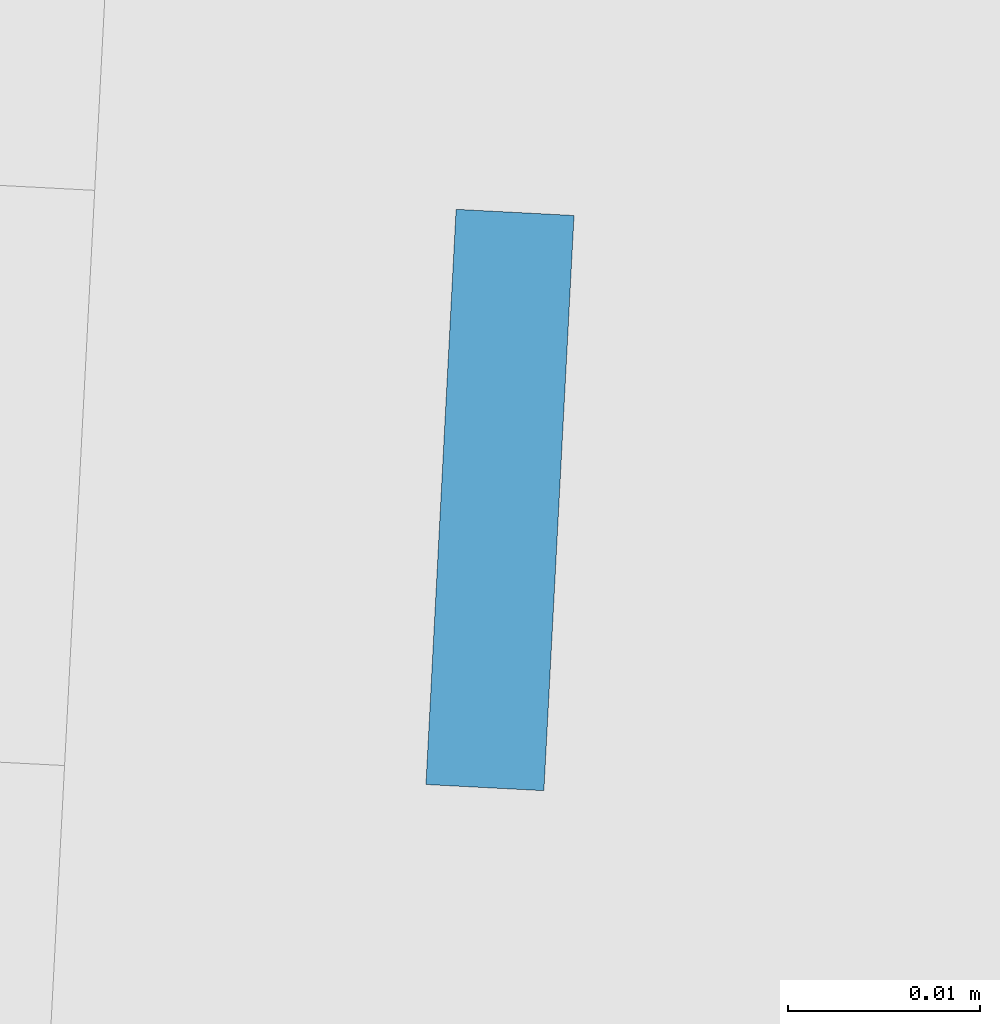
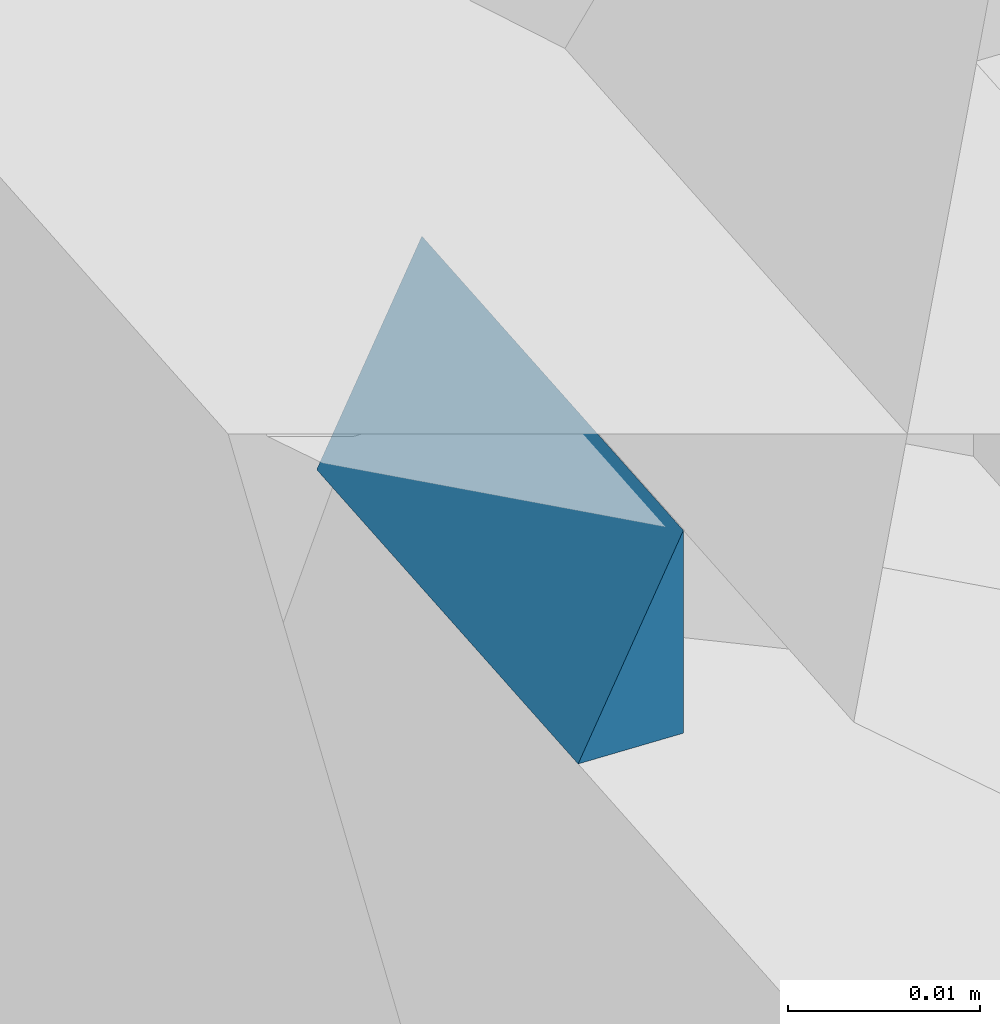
# One storey, part 50 of 82: 1 plate, 1 element without a shape of its own.
"""IFC2X3 building model written with IfcOpenShell, lengths in millimetres."""

from ifc_helpers import new_model, entity, si_unit, converted_unit, derived_unit, direction, frame, origin, place, context, subcontext, project, spatial, polyline, outline, extrude, source, transform, mapped, material, layer, layer_set, layer_usage, type_object, type_shapes, element, aggregate, save


model = new_model("IFC2X3")

# Units and contexts
model_context = context("Model", 3, precision=0.01, world=origin(), true_north=direction((6.12303176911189e-17, 1.0)))
body_context = subcontext(model_context, "Body", "Model", "MODEL_VIEW")
ifc_project = project(units=[si_unit("LENGTHUNIT", "METRE", prefix="MILLI"), si_unit("AREAUNIT", "SQUARE_METRE"), si_unit("VOLUMEUNIT", "CUBIC_METRE"), converted_unit("PLANEANGLEUNIT", "DEGREE", entity("IfcRatioMeasure", 0.0174532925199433), si_unit("PLANEANGLEUNIT", "RADIAN"), dimensions=[0, 0, 0, 0, 0, 0, 0]), si_unit("MASSUNIT", "GRAM", prefix="KILO"), derived_unit("MASSDENSITYUNIT", [(si_unit("MASSUNIT", "GRAM", prefix="KILO"), 1), (si_unit("LENGTHUNIT", "METRE"), -3)]), si_unit("TIMEUNIT", "SECOND"), si_unit("FREQUENCYUNIT", "HERTZ"), si_unit("THERMODYNAMICTEMPERATUREUNIT", "DEGREE_CELSIUS"), derived_unit("THERMALTRANSMITTANCEUNIT", [(si_unit("MASSUNIT", "GRAM", prefix="KILO"), 1), (si_unit("THERMODYNAMICTEMPERATUREUNIT", "KELVIN"), -1), (si_unit("TIMEUNIT", "SECOND"), -3)]), derived_unit("VOLUMETRICFLOWRATEUNIT", [(si_unit("LENGTHUNIT", "METRE"), 3), (si_unit("TIMEUNIT", "SECOND"), -1)]), si_unit("ELECTRICCURRENTUNIT", "AMPERE"), si_unit("ELECTRICVOLTAGEUNIT", "VOLT"), si_unit("POWERUNIT", "WATT"), si_unit("FORCEUNIT", "NEWTON", prefix="KILO"), si_unit("ILLUMINANCEUNIT", "LUX"), si_unit("LUMINOUSFLUXUNIT", "LUMEN"), si_unit("LUMINOUSINTENSITYUNIT", "CANDELA"), derived_unit("USERDEFINED", [(si_unit("MASSUNIT", "GRAM", prefix="KILO"), -1), (si_unit("LENGTHUNIT", "METRE"), -2), (si_unit("TIMEUNIT", "SECOND"), 3), (si_unit("LUMINOUSFLUXUNIT", "LUMEN"), 1)]), derived_unit("LINEARVELOCITYUNIT", [(si_unit("LENGTHUNIT", "METRE"), 1), (si_unit("TIMEUNIT", "SECOND"), -1)]), si_unit("PRESSUREUNIT", "PASCAL"), derived_unit("USERDEFINED", [(si_unit("LENGTHUNIT", "METRE"), -2), (si_unit("MASSUNIT", "GRAM", prefix="KILO"), 1), (si_unit("TIMEUNIT", "SECOND"), -2)])], contexts=[model_context])

# Site, building, storey
site_placement = place(None, origin())
site = spatial("IfcSite", under=ifc_project, at=site_placement, Name="表面", CompositionType="ELEMENT")
building_placement = place(site_placement, origin())
building = spatial("IfcBuilding", under=site, at=building_placement, CompositionType="ELEMENT")
storey_placement = place(building_placement, origin())
storey = spatial("IfcBuildingStorey", under=building, at=storey_placement, Name="1F", CompositionType="ELEMENT", Elevation=0.0)

# Curtain wall, plate
curtain_wall_type = type_object("IfcCurtainWallType", Name="幕墙系统:1450 x 2100mm", PredefinedType="NOTDEFINED")
curtain_wall_placement = place(storey_placement, origin())
curtain_wall = element("IfcCurtainWall", 1, at=curtain_wall_placement, inside=storey, type_object=curtain_wall_type, Name="幕墙系统:1450 x 2100mm", ObjectType="幕墙系统:1450 x 2100mm")
ifc_material = material(Name="<Unnamed>")
ifc_layer = layer(ifc_material, 30.0)
ifc_layer_set = layer_set([ifc_layer], Name="幕墙系统:1450 x 2100mm")
ifc_layer_usage = layer_usage(ifc_layer_set, "AXIS3", "POSITIVE", 0.0)
plate_type = type_object("IfcPlateType", Name="玻璃", PredefinedType="CURTAIN_PANEL", material=ifc_layer_set)
shared_shape = source(origin(), body_context, "Body", "SweptSolid", [
    extrude(outline(polyline([(-4.29837511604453, -2.05080968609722), (8.59675023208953, -2.05080968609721), (-4.298375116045, 4.10161937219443), (-4.29837511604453, -2.05080968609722)])), frame((-1.02540484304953, -15.0, 4.29837511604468), z_axis=(0.0, 1.0, 0.0), x_axis=(0.0, 0.0, 1.0)), (0.0, 0.0, 1.0), 30.0),
])
type_shapes(plate_type, [shared_shape])
plate_placement = place(curtain_wall_placement, frame((-31347.7878564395, -28180.2578320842, 14700.0), z_axis=(0.0, 0.0, 1.0), x_axis=(-0.998629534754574, 0.0523359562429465, 0.0)))
plate = element("IfcPlate", 2, at=plate_placement, type_object=plate_type, material=ifc_layer_usage, Name="系统嵌板:玻璃", ObjectType="玻璃", context=body_context, shape_type="MappedRepresentation", body=[
    mapped(shared_shape, transform((0.0, 0.0, 0.0), scale=1.0)),
])
aggregate(curtain_wall, [plate])

save(model, "model.ifc")
